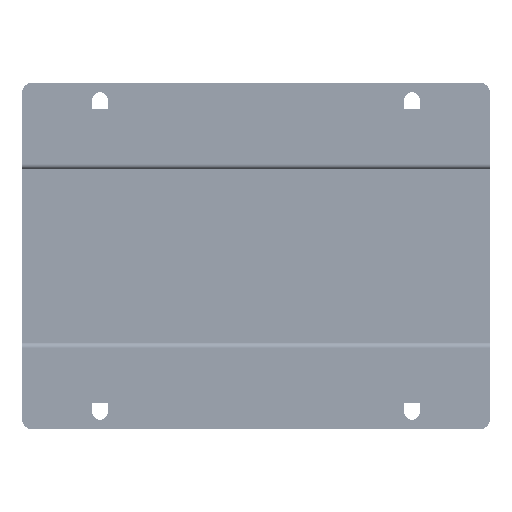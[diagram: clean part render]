
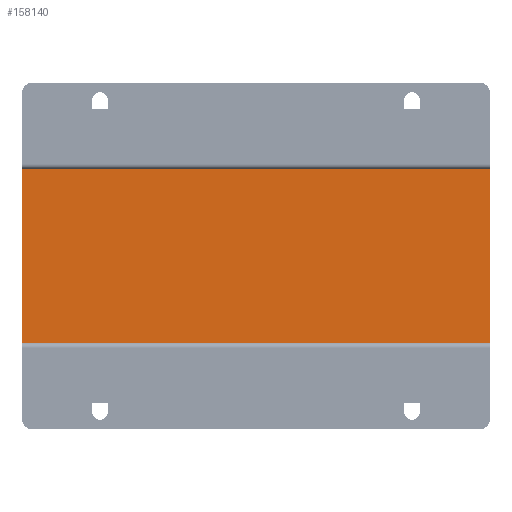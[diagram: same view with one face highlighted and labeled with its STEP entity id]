
A CAD part, front view. The second image highlights one B-rep face of the part: STEP entity #158140.
In plain terms, the highlighted planar face has unit normal (0, -1, 0).
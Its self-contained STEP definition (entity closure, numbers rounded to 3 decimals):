
#7362 = EDGE_CURVE ( 'NONE', #28289, #127729, #61369, .T. ) ;
#15306 = VERTEX_POINT ( 'NONE', #73794 ) ;
#17775 = ORIENTED_EDGE ( 'NONE', *, *, #123291, .F. ) ;
#18057 = FACE_OUTER_BOUND ( 'NONE', #127170, .T. ) ;
#28124 = CARTESIAN_POINT ( 'NONE',  ( -135., -112.5, 50. ) ) ;
#28289 = VERTEX_POINT ( 'NONE', #51423 ) ;
#28670 = DIRECTION ( 'NONE',  ( 0., 0., -1. ) ) ;
#39499 = LINE ( 'NONE', #28124, #98960 ) ;
#48508 = DIRECTION ( 'NONE',  ( 1., 0., 0. ) ) ;
#49134 = CARTESIAN_POINT ( 'NONE',  ( 135., -112.5, -50. ) ) ;
#49440 = PLANE ( 'NONE',  #62173 ) ;
#50040 = CARTESIAN_POINT ( 'NONE',  ( -135., -112.5, 50. ) ) ;
#51423 = CARTESIAN_POINT ( 'NONE',  ( 135., -112.5, 50. ) ) ;
#61369 = LINE ( 'NONE', #63731, #158590 ) ;
#62157 = DIRECTION ( 'NONE',  ( 0., 0., 1. ) ) ;
#62173 = AXIS2_PLACEMENT_3D ( 'NONE', #99828, #138151, #62157 ) ;
#63731 = CARTESIAN_POINT ( 'NONE',  ( 135., -112.5, 50. ) ) ;
#67444 = VECTOR ( 'NONE', #75599, 1000. ) ;
#73794 = CARTESIAN_POINT ( 'NONE',  ( -135., -112.5, -50. ) ) ;
#75599 = DIRECTION ( 'NONE',  ( 1., 0., 0. ) ) ;
#77691 = LINE ( 'NONE', #149984, #107391 ) ;
#98960 = VECTOR ( 'NONE', #28670, 1000. ) ;
#99828 = CARTESIAN_POINT ( 'NONE',  ( -135., -112.5, 50. ) ) ;
#99890 = EDGE_CURVE ( 'NONE', #107659, #15306, #39499, .T. ) ;
#102350 = ORIENTED_EDGE ( 'NONE', *, *, #99890, .T. ) ;
#105088 = LINE ( 'NONE', #50040, #67444 ) ;
#107391 = VECTOR ( 'NONE', #48508, 1000. ) ;
#107659 = VERTEX_POINT ( 'NONE', #132044 ) ;
#114492 = ORIENTED_EDGE ( 'NONE', *, *, #7362, .F. ) ;
#123291 = EDGE_CURVE ( 'NONE', #107659, #28289, #105088, .T. ) ;
#124124 = ORIENTED_EDGE ( 'NONE', *, *, #157619, .T. ) ;
#127170 = EDGE_LOOP ( 'NONE', ( #124124, #114492, #17775, #102350 ) ) ;
#127729 = VERTEX_POINT ( 'NONE', #49134 ) ;
#132044 = CARTESIAN_POINT ( 'NONE',  ( -135., -112.5, 50. ) ) ;
#138151 = DIRECTION ( 'NONE',  ( 0., 1., 0. ) ) ;
#139630 = DIRECTION ( 'NONE',  ( 0., 0., -1. ) ) ;
#149984 = CARTESIAN_POINT ( 'NONE',  ( -135., -112.5, -50. ) ) ;
#157619 = EDGE_CURVE ( 'NONE', #15306, #127729, #77691, .T. ) ;
#158140 = ADVANCED_FACE ( 'NONE', ( #18057 ), #49440, .F. ) ;
#158590 = VECTOR ( 'NONE', #139630, 1000. ) ;
